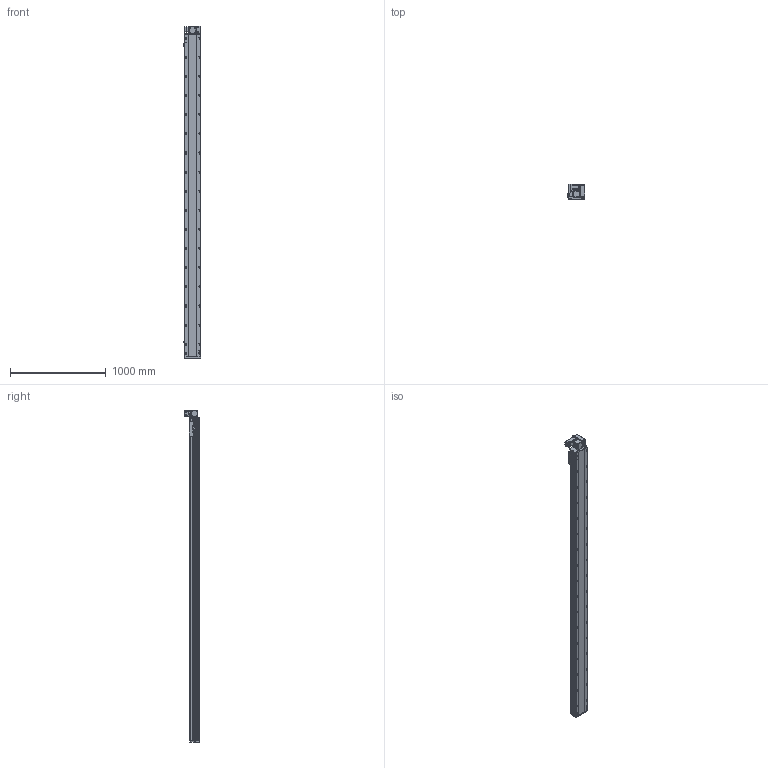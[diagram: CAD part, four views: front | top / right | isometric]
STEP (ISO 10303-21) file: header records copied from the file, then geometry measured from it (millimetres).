
FILE_DESCRIPTION (( 'STEP AP214' ), '1' );
FILE_NAME ('RTB17S-XX-3100-RW-M40-C4.STEP', '2025-12-11T09:17:39', ( '' ), ( '' ), 'SwSTEP 2.0', 'SolidWorks 2018', '' );
FILE_SCHEMA (( 'AUTOMOTIVE_DESIGN' ));
Length unit declared in the file: millimetre
Products named in the file (14): RTB17S-RW-々湍釱蚾饜-400W^RTB17S-XX-XX-RW-M40-C4; RTH13-BL-012覜茼え俋离^RTB17S-XX-XX-RW-M40-C4; RTB14-L-017P^RTB17S-RW-々湍釱蚾饜-400W_RTB17S-XX-XX-RW-M40-C4; RTB17S-L-001耜醱啣^RTB17S-XX-XX-RW-M40-C4; OMRON EE-SX672 传感器^RTB17S-XX-XX-RW-M40-C4; RTB14-L-018P^RTB17S-RW-々湍釱蚾饜-400W_RTB17S-XX-XX-RW-M40-C4; RTB17S-XX-3100-RW-M40-C4; RTB14-L-005P--轴承塑胶压盖^RTB17S-RW-皮带座装配-400W_RTB17S-XX-XX-RW-M40-C4; RMP17S-L-014-T20--々湍釱^RTB17S-RW-々湍釱蚾饜-400W_RTB17S-XX-XX-RW-M40-C4; RTB17S-L-004佪裝蹟譫蟀諉釱^RTB17S-XX-XX-RW-M40-C4; 400W侜督萇儂^RTB17S-XX-XX-RW-M40-C4; RTB17S-L-007奻裔^RTB17S-XX-XX-RW-M40-C4; RTB17-R-011菁釱^RTB17S-XX-XX-RW-M40-C4; RTB14-L-008-M20--萇儂啣^RTB17S-RW-々湍釱蚾饜-400W_RTB17S-XX-XX-RW-M40-C4
Assembly tree (16 placements, depth 3):
  RTB17S-XX-3100-RW-M40-C4
    RTB17-R-011菁釱^RTB17S-XX-XX-RW-M40-C4
    RTB17S-L-007奻裔^RTB17S-XX-XX-RW-M40-C4
    OMRON EE-SX672 传感器^RTB17S-XX-XX-RW-M40-C4  x3
    RTB17S-L-001耜醱啣^RTB17S-XX-XX-RW-M40-C4
    400W侜督萇儂^RTB17S-XX-XX-RW-M40-C4
    RTB17S-L-004佪裝蹟譫蟀諉釱^RTB17S-XX-XX-RW-M40-C4
    RTH13-BL-012覜茼え俋离^RTB17S-XX-XX-RW-M40-C4
    RTB17S-RW-々湍釱蚾饜-400W^RTB17S-XX-XX-RW-M40-C4
      RMP17S-L-014-T20--々湍釱^RTB17S-RW-々湍釱蚾饜-400W_RTB17S-XX-XX-RW-M40-C4
      RTB14-L-005P--轴承塑胶压盖^RTB17S-RW-皮带座装配-400W_RTB17S-XX-XX-RW-M40-C4
      RTB14-L-008-M20--萇儂啣^RTB17S-RW-々湍釱蚾饜-400W_RTB17S-XX-XX-RW-M40-C4
      RTB14-L-017P^RTB17S-RW-々湍釱蚾饜-400W_RTB17S-XX-XX-RW-M40-C4  x2
      RTB14-L-018P^RTB17S-RW-々湍釱蚾饜-400W_RTB17S-XX-XX-RW-M40-C4
Bounding box: 183.5 x 160.5 x 3472.5 mm (x, y, z)
Volume: 29497044.2 mm3; surface area: 3366476.1 mm2
Topology: 15 solids, 15 shells, 2381 faces, 6681 edges, 4365 vertices
Faces by surface type: plane 1090, cylinder 843, bspline 301, cone 139, torus 8
Entity records: 71081 total; most frequent: CARTESIAN_POINT 20286, ORIENTED_EDGE 10206, DIRECTION 9386, EDGE_CURVE 5103, VERTEX_POINT 3353, AXIS2_PLACEMENT_3D 3283, LINE 2820, VECTOR 2820
